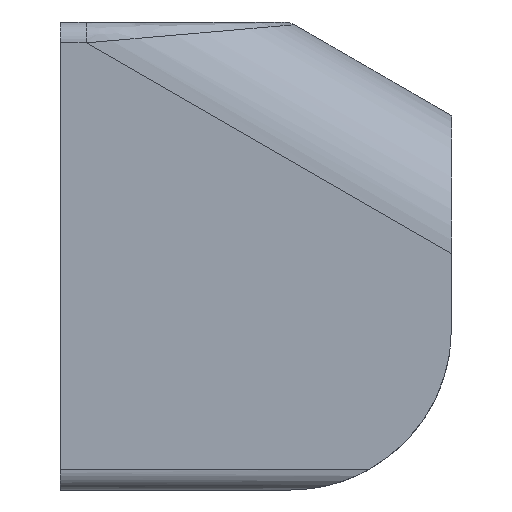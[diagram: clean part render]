
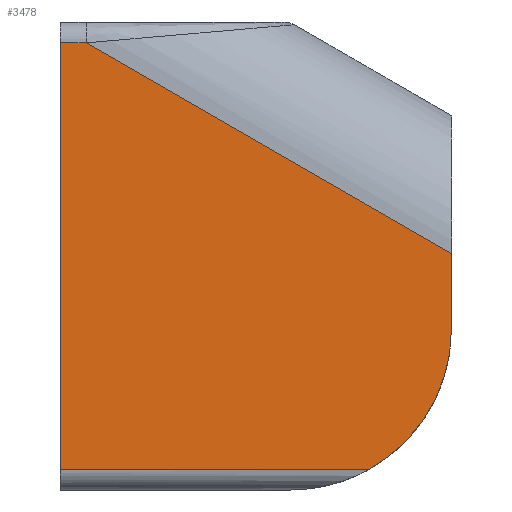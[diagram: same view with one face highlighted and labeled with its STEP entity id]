
A CAD part, left-side view. The second image highlights one B-rep face of the part: STEP entity #3478.
In plain terms, the highlighted planar face has unit normal (-1, 0, 0).
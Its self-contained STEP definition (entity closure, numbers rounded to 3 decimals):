
#68 = DIRECTION ( 'NONE',  ( -1., 0., 0. ) ) ;
#180 = EDGE_CURVE ( 'NONE', #1936, #556, #2713, .T. ) ;
#378 = LINE ( 'NONE', #2118, #2322 ) ;
#437 = CARTESIAN_POINT ( 'NONE',  ( -9.694, 9.75, 10.98 ) ) ;
#470 = CARTESIAN_POINT ( 'NONE',  ( -9.694, 9.75, -10.52 ) ) ;
#556 = VERTEX_POINT ( 'NONE', #3342 ) ;
#591 = ORIENTED_EDGE ( 'NONE', *, *, #2772, .T. ) ;
#603 = CARTESIAN_POINT ( 'NONE',  ( -9.694, -8.75, -10.52 ) ) ;
#659 = DIRECTION ( 'NONE',  ( 0., 0., 1. ) ) ;
#702 = CARTESIAN_POINT ( 'NONE',  ( -9.694, -1.3, -2.77 ) ) ;
#803 = VERTEX_POINT ( 'NONE', #910 ) ;
#810 = EDGE_CURVE ( 'NONE', #3421, #2581, #3428, .T. ) ;
#823 = CARTESIAN_POINT ( 'NONE',  ( -9.694, 8.512, 10.98 ) ) ;
#910 = CARTESIAN_POINT ( 'NONE',  ( -9.694, 9.75, -9.52 ) ) ;
#941 = DIRECTION ( 'NONE',  ( 0., -1., 0. ) ) ;
#1002 = ORIENTED_EDGE ( 'NONE', *, *, #810, .T. ) ;
#1080 = AXIS2_PLACEMENT_3D ( 'NONE', #603, #1198, #1444 ) ;
#1147 = CARTESIAN_POINT ( 'NONE',  ( -9.694, -8.75, 10.98 ) ) ;
#1198 = DIRECTION ( 'NONE',  ( -1., 0., 0. ) ) ;
#1302 = DIRECTION ( 'NONE',  ( 0., 0., -1. ) ) ;
#1321 = DIRECTION ( 'NONE',  ( 0., 0., 1. ) ) ;
#1376 = VECTOR ( 'NONE', #941, 1000. ) ;
#1444 = DIRECTION ( 'NONE',  ( 0., 0., 1. ) ) ;
#1465 = LINE ( 'NONE', #2928, #1376 ) ;
#1562 = VECTOR ( 'NONE', #3125, 1000. ) ;
#1576 = ORIENTED_EDGE ( 'NONE', *, *, #180, .T. ) ;
#1629 = EDGE_CURVE ( 'NONE', #803, #1936, #1465, .T. ) ;
#1773 = ORIENTED_EDGE ( 'NONE', *, *, #3218, .F. ) ;
#1798 = VERTEX_POINT ( 'NONE', #437 ) ;
#1844 = FACE_OUTER_BOUND ( 'NONE', #2585, .T. ) ;
#1936 = VERTEX_POINT ( 'NONE', #2204 ) ;
#2093 = ORIENTED_EDGE ( 'NONE', *, *, #3153, .F. ) ;
#2118 = CARTESIAN_POINT ( 'NONE',  ( -9.694, -9.05, 7.48 ) ) ;
#2164 = LINE ( 'NONE', #470, #2495 ) ;
#2204 = CARTESIAN_POINT ( 'NONE',  ( -9.694, -5.108, -9.52 ) ) ;
#2292 = PLANE ( 'NONE',  #1080 ) ;
#2322 = VECTOR ( 'NONE', #1302, 1000. ) ;
#2495 = VECTOR ( 'NONE', #1321, 1000. ) ;
#2581 = VERTEX_POINT ( 'NONE', #823 ) ;
#2585 = EDGE_LOOP ( 'NONE', ( #1002, #591, #2093, #3041, #1576, #1773 ) ) ;
#2713 = CIRCLE ( 'NONE', #2822, 7.75 ) ;
#2772 = EDGE_CURVE ( 'NONE', #2581, #1798, #3308, .T. ) ;
#2822 = AXIS2_PLACEMENT_3D ( 'NONE', #702, #68, #659 ) ;
#2922 = VECTOR ( 'NONE', #3420, 1000. ) ;
#2928 = CARTESIAN_POINT ( 'NONE',  ( -9.694, -1.3, -9.52 ) ) ;
#3041 = ORIENTED_EDGE ( 'NONE', *, *, #1629, .T. ) ;
#3087 = CARTESIAN_POINT ( 'NONE',  ( -9.694, -9.05, 0.84 ) ) ;
#3125 = DIRECTION ( 'NONE',  ( 0., 1., 0. ) ) ;
#3153 = EDGE_CURVE ( 'NONE', #803, #1798, #2164, .T. ) ;
#3218 = EDGE_CURVE ( 'NONE', #3421, #556, #378, .T. ) ;
#3308 = LINE ( 'NONE', #1147, #1562 ) ;
#3342 = CARTESIAN_POINT ( 'NONE',  ( -9.694, -9.05, -2.77 ) ) ;
#3392 = CARTESIAN_POINT ( 'NONE',  ( -9.694, -13.744, -1.87 ) ) ;
#3420 = DIRECTION ( 'NONE',  ( 0., 0.866, 0.5 ) ) ;
#3421 = VERTEX_POINT ( 'NONE', #3087 ) ;
#3428 = LINE ( 'NONE', #3392, #2922 ) ;
#3478 = ADVANCED_FACE ( 'NONE', ( #1844 ), #2292, .T. ) ;
